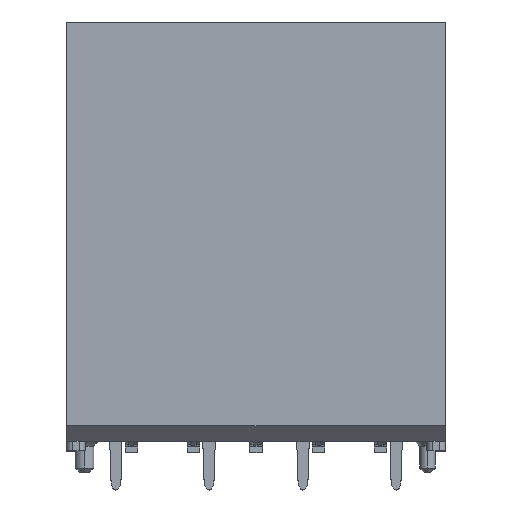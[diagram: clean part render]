
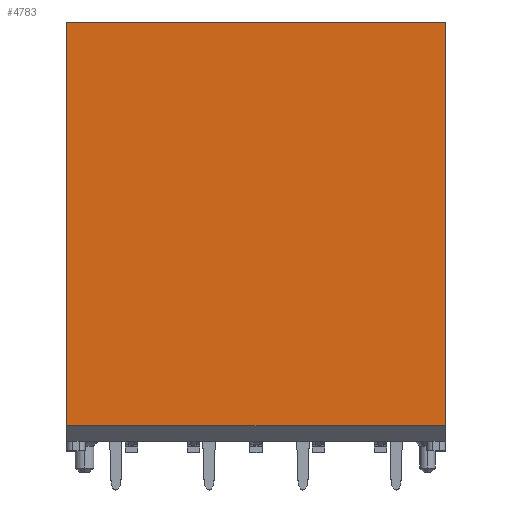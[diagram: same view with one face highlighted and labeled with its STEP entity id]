
A CAD part, top view. The second image highlights one B-rep face of the part: STEP entity #4783.
In plain terms, the highlighted planar face has unit normal (0, 0, 1).
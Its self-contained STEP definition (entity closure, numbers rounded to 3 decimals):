
#358 = VECTOR ( 'NONE', #25489, 1000. ) ;
#388 = EDGE_CURVE ( 'NONE', #26072, #31519, #21560, .T. ) ;
#1186 = VECTOR ( 'NONE', #35147, 1000. ) ;
#4783 = ADVANCED_FACE ( 'NONE', ( #5241 ), #18822, .T. ) ;
#5241 = FACE_OUTER_BOUND ( 'NONE', #5442, .T. ) ;
#5442 = EDGE_LOOP ( 'NONE', ( #21166, #17888, #20542, #32078 ) ) ;
#8281 = DIRECTION ( 'NONE',  ( 0., 1., 0. ) ) ;
#8544 = CARTESIAN_POINT ( 'NONE',  ( -6.075, 3.6, 2.925 ) ) ;
#8802 = EDGE_CURVE ( 'NONE', #31519, #36587, #24134, .T. ) ;
#9920 = EDGE_CURVE ( 'NONE', #26072, #32564, #31895, .T. ) ;
#10795 = DIRECTION ( 'NONE',  ( 0., 1., 0. ) ) ;
#15909 = CARTESIAN_POINT ( 'NONE',  ( 6.075, -9.85, 2.925 ) ) ;
#17888 = ORIENTED_EDGE ( 'NONE', *, *, #9920, .T. ) ;
#18017 = CARTESIAN_POINT ( 'NONE',  ( -6.075, -9.35, 2.925 ) ) ;
#18822 = PLANE ( 'NONE',  #23831 ) ;
#18951 = DIRECTION ( 'NONE',  ( 1., 0., 0. ) ) ;
#20422 = CARTESIAN_POINT ( 'NONE',  ( 6.075, -9.35, 2.925 ) ) ;
#20542 = ORIENTED_EDGE ( 'NONE', *, *, #26982, .T. ) ;
#20544 = VECTOR ( 'NONE', #8281, 1000. ) ;
#21166 = ORIENTED_EDGE ( 'NONE', *, *, #388, .F. ) ;
#21560 = LINE ( 'NONE', #22793, #23454 ) ;
#22526 = CARTESIAN_POINT ( 'NONE',  ( -6.075, 3.6, 2.925 ) ) ;
#22793 = CARTESIAN_POINT ( 'NONE',  ( -6.075, -9.85, 2.925 ) ) ;
#23454 = VECTOR ( 'NONE', #10795, 1000. ) ;
#23831 = AXIS2_PLACEMENT_3D ( 'NONE', #15909, #36717, #18951 ) ;
#24134 = LINE ( 'NONE', #22526, #358 ) ;
#25489 = DIRECTION ( 'NONE',  ( 1., 0., 0. ) ) ;
#26072 = VERTEX_POINT ( 'NONE', #18017 ) ;
#26156 = CARTESIAN_POINT ( 'NONE',  ( 6.075, -9.35, 2.925 ) ) ;
#26982 = EDGE_CURVE ( 'NONE', #32564, #36587, #28398, .T. ) ;
#28398 = LINE ( 'NONE', #29034, #20544 ) ;
#29034 = CARTESIAN_POINT ( 'NONE',  ( 6.075, -9.85, 2.925 ) ) ;
#31519 = VERTEX_POINT ( 'NONE', #8544 ) ;
#31895 = LINE ( 'NONE', #26156, #1186 ) ;
#32078 = ORIENTED_EDGE ( 'NONE', *, *, #8802, .F. ) ;
#32564 = VERTEX_POINT ( 'NONE', #20422 ) ;
#35147 = DIRECTION ( 'NONE',  ( 1., 0., 0. ) ) ;
#35980 = CARTESIAN_POINT ( 'NONE',  ( 6.075, 3.6, 2.925 ) ) ;
#36587 = VERTEX_POINT ( 'NONE', #35980 ) ;
#36717 = DIRECTION ( 'NONE',  ( 0., 0., 1. ) ) ;
